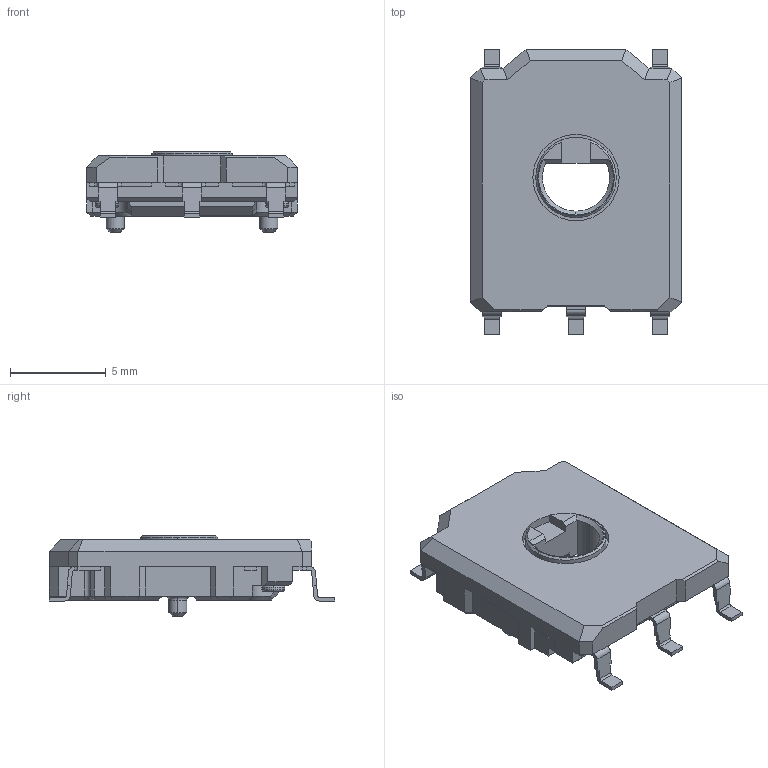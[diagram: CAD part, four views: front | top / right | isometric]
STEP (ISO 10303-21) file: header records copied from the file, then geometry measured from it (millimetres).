
FILE_DESCRIPTION (( 'STEP AP214' ), '1' );
FILE_NAME ('RDC90.STEP', '2011-12-26T06:17:11', ( '' ), ( '' ), 'SwSTEP 2.0', 'SolidWorks 2010', '' );
FILE_SCHEMA (( 'AUTOMOTIVE_DESIGN' ));
Length unit declared in the file: millimetre
Products named in the file (1): RDC90
Bounding box: 11 x 14.9 x 4.21 mm (x, y, z)
Volume: 353.5 mm3; surface area: 506.2 mm2
Topology: 1 solids, 1 shells, 341 faces, 894 edges, 562 vertices
Faces by surface type: plane 236, cylinder 61, cone 26, torus 16, bspline 2
Entity records: 14341 total; most frequent: CARTESIAN_POINT 2150, ORIENTED_EDGE 1788, DIRECTION 1701, EDGE_CURVE 894, VECTOR 683, LINE 683, VERTEX_POINT 562, AXIS2_PLACEMENT_3D 509
